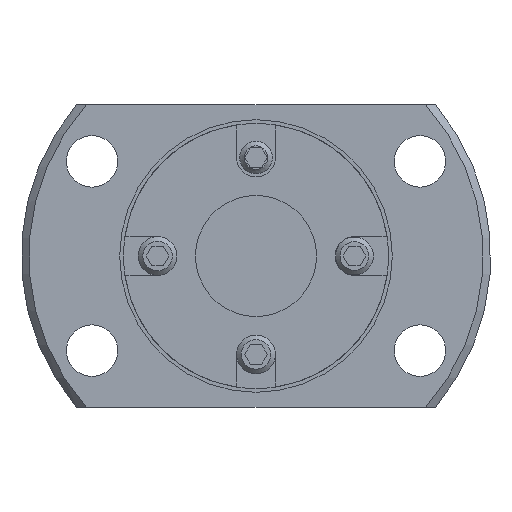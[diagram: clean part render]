
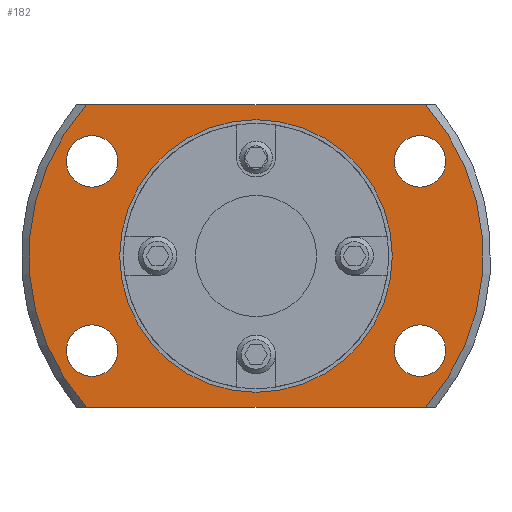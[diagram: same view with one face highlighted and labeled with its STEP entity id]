
A CAD part, left-side view. The second image highlights one B-rep face of the part: STEP entity #182.
In plain terms, the highlighted planar face has unit normal (-1, 0, 0).
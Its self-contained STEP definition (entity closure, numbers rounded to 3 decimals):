
#182 = ADVANCED_FACE( '', ( #410, #411, #412, #413, #414, #415 ), #416, .F. );
#410 = FACE_OUTER_BOUND( '', #714, .T. );
#411 = FACE_BOUND( '', #715, .T. );
#412 = FACE_BOUND( '', #716, .T. );
#413 = FACE_BOUND( '', #717, .T. );
#414 = FACE_BOUND( '', #718, .T. );
#415 = FACE_BOUND( '', #719, .T. );
#416 = PLANE( '', #720 );
#714 = EDGE_LOOP( '', ( #1089, #1090, #1091, #1092 ) );
#715 = EDGE_LOOP( '', ( #1093 ) );
#716 = EDGE_LOOP( '', ( #1094 ) );
#717 = EDGE_LOOP( '', ( #1095 ) );
#718 = EDGE_LOOP( '', ( #1096 ) );
#719 = EDGE_LOOP( '', ( #1097 ) );
#720 = AXIS2_PLACEMENT_3D( '', #1098, #1099, #1100 );
#1089 = ORIENTED_EDGE( '', *, *, #1735, .F. );
#1090 = ORIENTED_EDGE( '', *, *, #1694, .T. );
#1091 = ORIENTED_EDGE( '', *, *, #1736, .F. );
#1092 = ORIENTED_EDGE( '', *, *, #1737, .T. );
#1093 = ORIENTED_EDGE( '', *, *, #1738, .T. );
#1094 = ORIENTED_EDGE( '', *, *, #1739, .T. );
#1095 = ORIENTED_EDGE( '', *, *, #1670, .T. );
#1096 = ORIENTED_EDGE( '', *, *, #1740, .T. );
#1097 = ORIENTED_EDGE( '', *, *, #1741, .T. );
#1098 = CARTESIAN_POINT( '', ( 10., 8.75, 0. ) );
#1099 = DIRECTION( '', ( 1., 0., 0. ) );
#1100 = DIRECTION( '', ( 0., 0., -1. ) );
#1670 = EDGE_CURVE( '', #1952, #1952, #1953, .T. );
#1694 = EDGE_CURVE( '', #1985, #1994, #1996, .T. );
#1735 = EDGE_CURVE( '', #1985, #2068, #2069, .T. );
#1736 = EDGE_CURVE( '', #2070, #1994, #2071, .T. );
#1737 = EDGE_CURVE( '', #2070, #2068, #2072, .T. );
#1738 = EDGE_CURVE( '', #2073, #2073, #2074, .T. );
#1739 = EDGE_CURVE( '', #2075, #2075, #2076, .T. );
#1740 = EDGE_CURVE( '', #2077, #2077, #2078, .T. );
#1741 = EDGE_CURVE( '', #2079, #2079, #2080, .T. );
#1952 = VERTEX_POINT( '', #2360 );
#1953 = CIRCLE( '', #2361, 1.7 );
#1985 = VERTEX_POINT( '', #2405 );
#1994 = VERTEX_POINT( '', #2423 );
#1996 = LINE( '', #2428, #2429 );
#2068 = VERTEX_POINT( '', #2514 );
#2069 = CIRCLE( '', #2515, 15. );
#2070 = VERTEX_POINT( '', #2516 );
#2071 = CIRCLE( '', #2517, 15. );
#2072 = LINE( '', #2518, #2519 );
#2073 = VERTEX_POINT( '', #2520 );
#2074 = CIRCLE( '', #2521, 1.7 );
#2075 = VERTEX_POINT( '', #2522 );
#2076 = CIRCLE( '', #2523, 1.7 );
#2077 = VERTEX_POINT( '', #2524 );
#2078 = CIRCLE( '', #2525, 1.7 );
#2079 = VERTEX_POINT( '', #2526 );
#2080 = CIRCLE( '', #2527, 8.75 );
#2360 = CARTESIAN_POINT( '', ( 10., 10.825, -7.95 ) );
#2361 = AXIS2_PLACEMENT_3D( '', #2864, #2865, #2866 );
#2405 = CARTESIAN_POINT( '', ( 10., 11.18, -10. ) );
#2423 = CARTESIAN_POINT( '', ( 10., -11.18, -10. ) );
#2428 = CARTESIAN_POINT( '', ( 10., 8.75, -10. ) );
#2429 = VECTOR( '', #2891, 1000. );
#2514 = CARTESIAN_POINT( '', ( 10., 11.18, 10. ) );
#2515 = AXIS2_PLACEMENT_3D( '', #2962, #2963, #2964 );
#2516 = CARTESIAN_POINT( '', ( 10., -11.18, 10. ) );
#2517 = AXIS2_PLACEMENT_3D( '', #2965, #2966, #2967 );
#2518 = CARTESIAN_POINT( '', ( 10., 8.75, 10. ) );
#2519 = VECTOR( '', #2968, 1000. );
#2520 = CARTESIAN_POINT( '', ( 10., -10.825, 4.55 ) );
#2521 = AXIS2_PLACEMENT_3D( '', #2969, #2970, #2971 );
#2522 = CARTESIAN_POINT( '', ( 10., -10.825, -7.95 ) );
#2523 = AXIS2_PLACEMENT_3D( '', #2972, #2973, #2974 );
#2524 = CARTESIAN_POINT( '', ( 10., 10.825, 4.55 ) );
#2525 = AXIS2_PLACEMENT_3D( '', #2975, #2976, #2977 );
#2526 = CARTESIAN_POINT( '', ( 10., 0., -8.75 ) );
#2527 = AXIS2_PLACEMENT_3D( '', #2978, #2979, #2980 );
#2864 = CARTESIAN_POINT( '', ( 10., 10.825, -6.25 ) );
#2865 = DIRECTION( '', ( 1., 0., 0. ) );
#2866 = DIRECTION( '', ( 0., 0., -1. ) );
#2891 = DIRECTION( '', ( 0., -1., 0. ) );
#2962 = CARTESIAN_POINT( '', ( 10., 0., 0. ) );
#2963 = DIRECTION( '', ( 1., 0., 0. ) );
#2964 = DIRECTION( '', ( 0., 0., -1. ) );
#2965 = CARTESIAN_POINT( '', ( 10., 0., 0. ) );
#2966 = DIRECTION( '', ( 1., 0., 0. ) );
#2967 = DIRECTION( '', ( 0., 0., -1. ) );
#2968 = DIRECTION( '', ( 0., 1., 0. ) );
#2969 = CARTESIAN_POINT( '', ( 10., -10.825, 6.25 ) );
#2970 = DIRECTION( '', ( 1., 0., 0. ) );
#2971 = DIRECTION( '', ( 0., 0., -1. ) );
#2972 = CARTESIAN_POINT( '', ( 10., -10.825, -6.25 ) );
#2973 = DIRECTION( '', ( 1., 0., 0. ) );
#2974 = DIRECTION( '', ( 0., 0., -1. ) );
#2975 = CARTESIAN_POINT( '', ( 10., 10.825, 6.25 ) );
#2976 = DIRECTION( '', ( 1., 0., 0. ) );
#2977 = DIRECTION( '', ( 0., 0., -1. ) );
#2978 = CARTESIAN_POINT( '', ( 10., 0., 0. ) );
#2979 = DIRECTION( '', ( 1., 0., 0. ) );
#2980 = DIRECTION( '', ( 0., 0., -1. ) );
